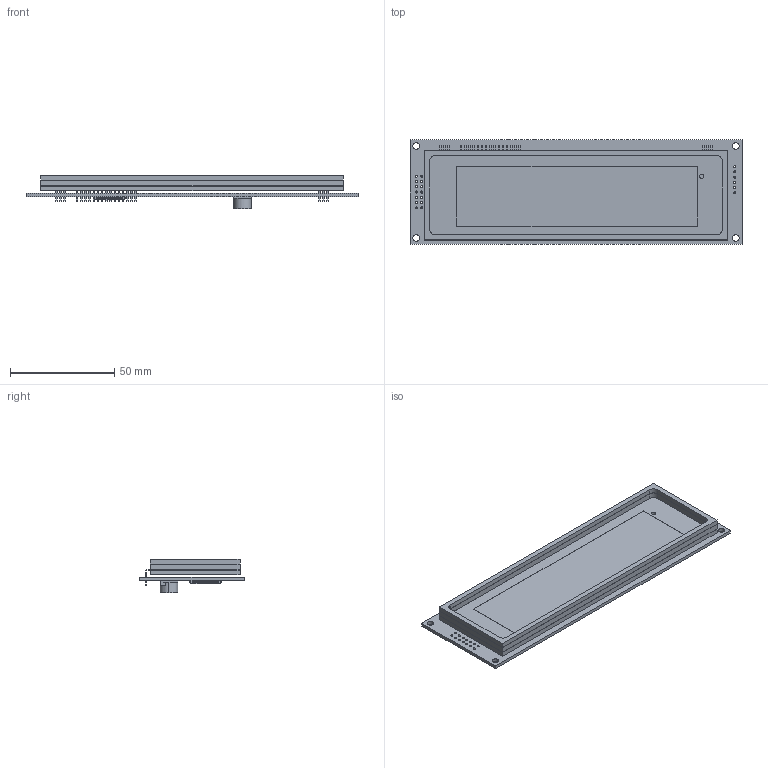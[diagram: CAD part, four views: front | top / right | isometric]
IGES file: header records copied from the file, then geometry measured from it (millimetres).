
Start section:  PTC IGES file: gu256x64d-7000.igs
Global section: file name: gu256x64d-7000.igs; native system: Pro/ENGINEER by Parametric Technology Corporation; preprocessor: 2010280; author: samx; organization: Unknown; date: 20140522.115713; units: millimetre
Bounding box: 159 x 50 x 16 mm (x, y, z)
Volume: 32596.1 mm3; surface area: 37976.5 mm2
Topology: 2 solids, 2 shells, 1502 faces, 4500 edges, 2984 vertices
Faces by surface type: bspline 1062, revolution 440
